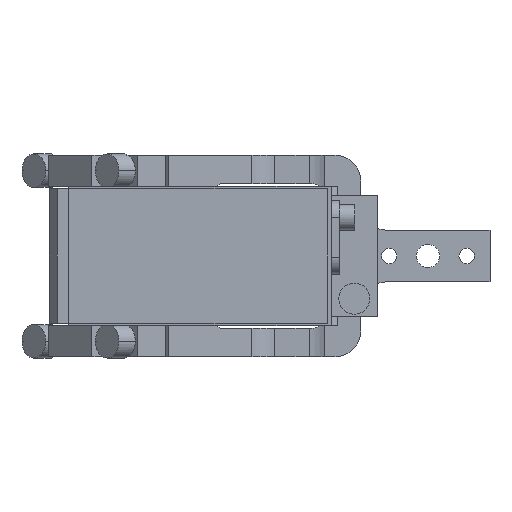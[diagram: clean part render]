
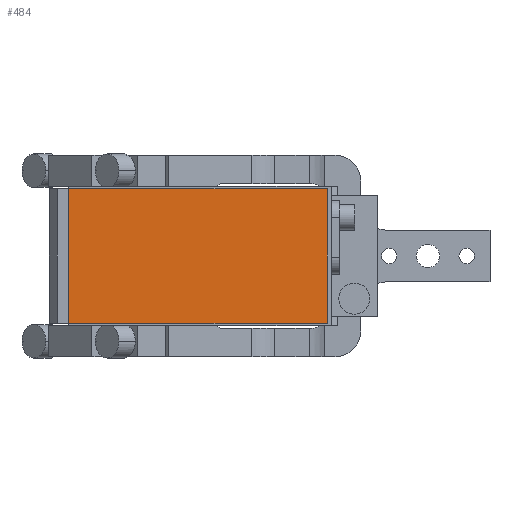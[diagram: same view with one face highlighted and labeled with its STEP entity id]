
A CAD part, front view. The second image highlights one B-rep face of the part: STEP entity #484.
In plain terms, the highlighted planar face has unit normal (0, -1, 0).
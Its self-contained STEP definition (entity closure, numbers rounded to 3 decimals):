
#357 = DIRECTION ( 'NONE',  ( 0., 0., -1. ) ) ;
#484 = ADVANCED_FACE ( 'NONE', ( #11615 ), #7116, .T. ) ;
#748 = DIRECTION ( 'NONE',  ( 1., 0., 0. ) ) ;
#1685 = DIRECTION ( 'NONE',  ( 0., 0., 1. ) ) ;
#2615 = VECTOR ( 'NONE', #357, 1000. ) ;
#3093 = ORIENTED_EDGE ( 'NONE', *, *, #9040, .T. ) ;
#3589 = LINE ( 'NONE', #13420, #2615 ) ;
#3765 = ORIENTED_EDGE ( 'NONE', *, *, #6706, .T. ) ;
#4229 = VECTOR ( 'NONE', #12628, 1000. ) ;
#4704 = CARTESIAN_POINT ( 'NONE',  ( -19., -286.5, 26. ) ) ;
#4904 = DIRECTION ( 'NONE',  ( 0., -1., 0. ) ) ;
#5501 = CARTESIAN_POINT ( 'NONE',  ( 81., -286.5, -26. ) ) ;
#5699 = VERTEX_POINT ( 'NONE', #4704 ) ;
#5850 = CARTESIAN_POINT ( 'NONE',  ( -19., -286.5, -26. ) ) ;
#5866 = VERTEX_POINT ( 'NONE', #5501 ) ;
#6161 = LINE ( 'NONE', #8140, #6519 ) ;
#6519 = VECTOR ( 'NONE', #1685, 1000. ) ;
#6706 = EDGE_CURVE ( 'NONE', #5699, #7332, #3589, .T. ) ;
#7116 = PLANE ( 'NONE',  #12272 ) ;
#7332 = VERTEX_POINT ( 'NONE', #5850 ) ;
#7464 = VECTOR ( 'NONE', #748, 1000. ) ;
#7772 = EDGE_LOOP ( 'NONE', ( #3765, #3093, #7921, #9009 ) ) ;
#7921 = ORIENTED_EDGE ( 'NONE', *, *, #13769, .T. ) ;
#7953 = CARTESIAN_POINT ( 'NONE',  ( 81., -286.5, 26. ) ) ;
#8140 = CARTESIAN_POINT ( 'NONE',  ( 81., -286.5, 26. ) ) ;
#9009 = ORIENTED_EDGE ( 'NONE', *, *, #13907, .T. ) ;
#9040 = EDGE_CURVE ( 'NONE', #7332, #5866, #12330, .T. ) ;
#9704 = VERTEX_POINT ( 'NONE', #7953 ) ;
#10429 = CARTESIAN_POINT ( 'NONE',  ( -19., -286.5, -26. ) ) ;
#10725 = CARTESIAN_POINT ( 'NONE',  ( -19., -286.5, 26. ) ) ;
#11615 = FACE_OUTER_BOUND ( 'NONE', #7772, .T. ) ;
#12272 = AXIS2_PLACEMENT_3D ( 'NONE', #12403, #4904, #13664 ) ;
#12330 = LINE ( 'NONE', #10429, #7464 ) ;
#12403 = CARTESIAN_POINT ( 'NONE',  ( 0., -286.5, 0. ) ) ;
#12628 = DIRECTION ( 'NONE',  ( -1., 0., 0. ) ) ;
#13420 = CARTESIAN_POINT ( 'NONE',  ( -19., -286.5, 26. ) ) ;
#13664 = DIRECTION ( 'NONE',  ( 0., 0., -1. ) ) ;
#13769 = EDGE_CURVE ( 'NONE', #5866, #9704, #6161, .T. ) ;
#13907 = EDGE_CURVE ( 'NONE', #9704, #5699, #13965, .T. ) ;
#13965 = LINE ( 'NONE', #10725, #4229 ) ;
